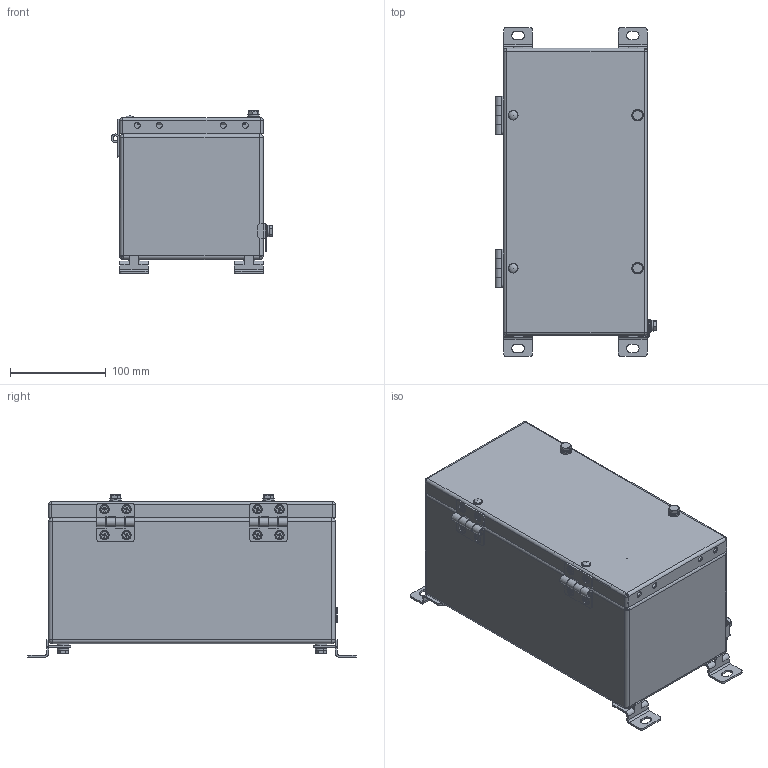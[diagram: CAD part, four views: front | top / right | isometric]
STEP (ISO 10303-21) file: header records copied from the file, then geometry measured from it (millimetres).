
FILE_DESCRIPTION((''),'2;1');
FILE_NAME('C:\Users\A.V.Nesterov\Desktop\111\3D\ТЗ\ТЗ 103336\КСРВ-Н301515_М6_3Д.stp','2024-04-04T20:34:12',('A.V.Nesterov'),(''),'Autodesk Inventor 2012','Autodesk Inventor 2012','');
FILE_SCHEMA(('AUTOMOTIVE_DESIGN { 1 0 10303 214 1 1 1 1 }'));
Length unit declared in the file: millimetre
Products named in the file (1): КСРВ-Н301515_М6_3Д
Bounding box: 169.19 x 344 x 169.8 mm (x, y, z)
Surface area: 565963.1 mm2 (no closed solid volume)
Topology: 0 solids, 79 shells, 1478 faces, 3254 edges, 2040 vertices
Faces by surface type: plane 827, cylinder 394, cone 164, torus 51, sphere 38, bspline 4
Full cylindrical faces by diameter (mm): 0.75 x2, 0.8 x4, 1 x7, 3.2 x8, 3.22 x4, 4 x8, 4.6 x2, 5 x18, 5.2 x5, 5.5 x2, 5.9 x16, 6 x13, 6.1 x8, 6.4 x11, 6.5 x1, 6.9 x4, 7 x13, 7.3 x4, 7.5 x18, 8 x5, 8.9 x14, 9 x5, 10 x2, 12 x11, 12.7 x8, 13 x10
Entity records: 38601 total; most frequent: CARTESIAN_POINT 7219, DIRECTION 6624, ORIENTED_EDGE 5692, EDGE_CURVE 2846, AXIS2_PLACEMENT_3D 2503, EDGE_LOOP 2048, VERTEX_POINT 1974, VECTOR 1618
